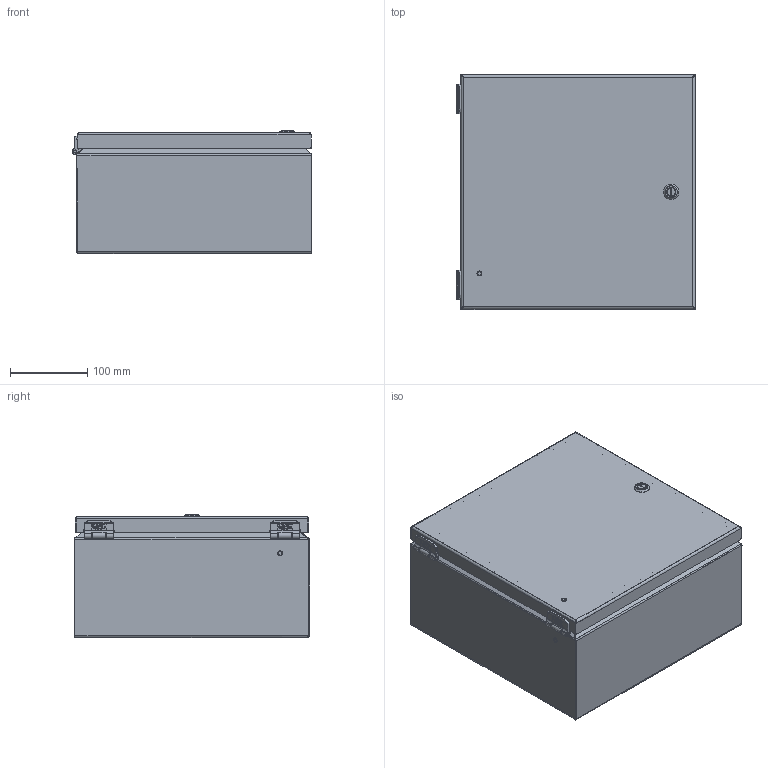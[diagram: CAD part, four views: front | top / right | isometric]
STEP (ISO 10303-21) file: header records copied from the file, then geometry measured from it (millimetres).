
FILE_DESCRIPTION((''),'2;1');
FILE_NAME('MODEL-059_ASM','2025-05-14T14:02:27',('joshi'),('SAGINAW CONTROL & ENGINEERING'),'CREO PARAMETRIC BY PTC INC, 2021284','CREO PARAMETRIC BY PTC INC, 2021284','');
FILE_SCHEMA(('AUTOMOTIVE_DESIGN { 1 0 10303 214 1 1 1 1 }'));
Length unit declared in the file: inch
Products named in the file (25): MODEL-059-BDY; MODEL-059-DR; 112643-BOX-LEAF; 112643-BOX-LEAF-STUD; 112643-BOX_ASM; 112643-DOOR-LEAF; 112643-DOOR-LEAF-STUD; 112643-DOOR_ASM; 112643-PIN; 112643_ASM; 113152; 100097; 100012; 112987_SHAFT; 112987_INSERT; 112984; 112987_SCREW; 112987_NUT; 112987_ASM; MODEL-059-GSKT; 120706; CH-ELJ_SUBPANEL; 102479; CH-ELJ_SUBPANEL-SUBASSEMBLY_ASM; MODEL-059_ASM
Assembly tree (35 placements, depth 4):
  MODEL-059_ASM
    MODEL-059-BDY
    MODEL-059-DR
    112643_ASM  x2
      112643-BOX_ASM
        112643-BOX-LEAF
        112643-BOX-LEAF-STUD
      112643-DOOR_ASM
        112643-DOOR-LEAF
        112643-DOOR-LEAF-STUD
      112643-PIN
    113152  x4
    100097  x2
    100012  x4
    112987_ASM
      112987_SHAFT
      112987_INSERT
      112984
      112987_SCREW
      112987_NUT
    MODEL-059-GSKT
    120706
    CH-ELJ_SUBPANEL-SUBASSEMBLY_ASM
      CH-ELJ_SUBPANEL
      102479  x4
Bounding box: 310.4 x 304.8 x 159.91 mm (x, y, z)
Volume: 808867.1 mm3; surface area: 995102 mm2
Topology: 34 solids, 36 shells, 3020 faces, 7743 edges, 4756 vertices
Faces by surface type: plane 1010, cylinder 886, bspline 862, cone 126, torus 116, sphere 20
Entity records: 104943 total; most frequent: CARTESIAN_POINT 56052, ORIENTED_EDGE 7350, DIRECTION 6180, PRESENTATION_STYLE_ASSIGNMENT 3844, STYLED_ITEM 3844, EDGE_CURVE 3675, CURVE_STYLE 3585, VERTEX_POINT 2294
